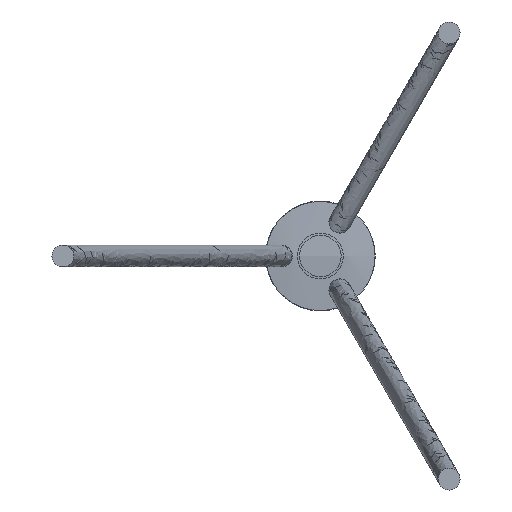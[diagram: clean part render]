
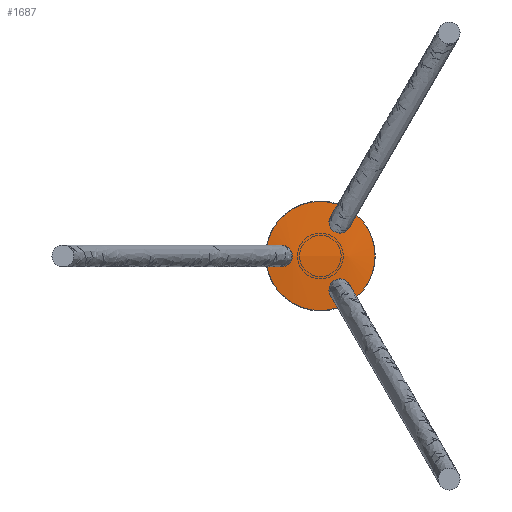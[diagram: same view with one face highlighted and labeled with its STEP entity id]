
A CAD part, front view. The second image highlights one B-rep face of the part: STEP entity #1687.
In plain terms, the highlighted spherical face has radius 347.136 mm.
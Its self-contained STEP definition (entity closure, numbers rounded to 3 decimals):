
#31=SPHERICAL_SURFACE('',#1904,347.136);
#502=FACE_OUTER_BOUND('',#624,.T.);
#624=EDGE_LOOP('',(#1520));
#719=CIRCLE('',#1903,50.217);
#857=VERTEX_POINT('',#5569);
#1082=EDGE_CURVE('',#857,#857,#719,.T.);
#1520=ORIENTED_EDGE('',*,*,#1082,.T.);
#1687=ADVANCED_FACE('',(#502),#31,.T.);
#1903=AXIS2_PLACEMENT_3D('',#5570,#2356,#2357);
#1904=AXIS2_PLACEMENT_3D('',#5572,#2359,#2360);
#2356=DIRECTION('center_axis',(0.,-1.,0.));
#2357=DIRECTION('ref_axis',(1.,0.,0.));
#2359=DIRECTION('center_axis',(0.,0.,1.));
#2360=DIRECTION('ref_axis',(1.,0.,0.));
#5569=CARTESIAN_POINT('',(0.,1046.516,50.217));
#5570=CARTESIAN_POINT('Origin',(0.,1046.516,0.));
#5572=CARTESIAN_POINT('Origin',(0.,1390.,0.));
